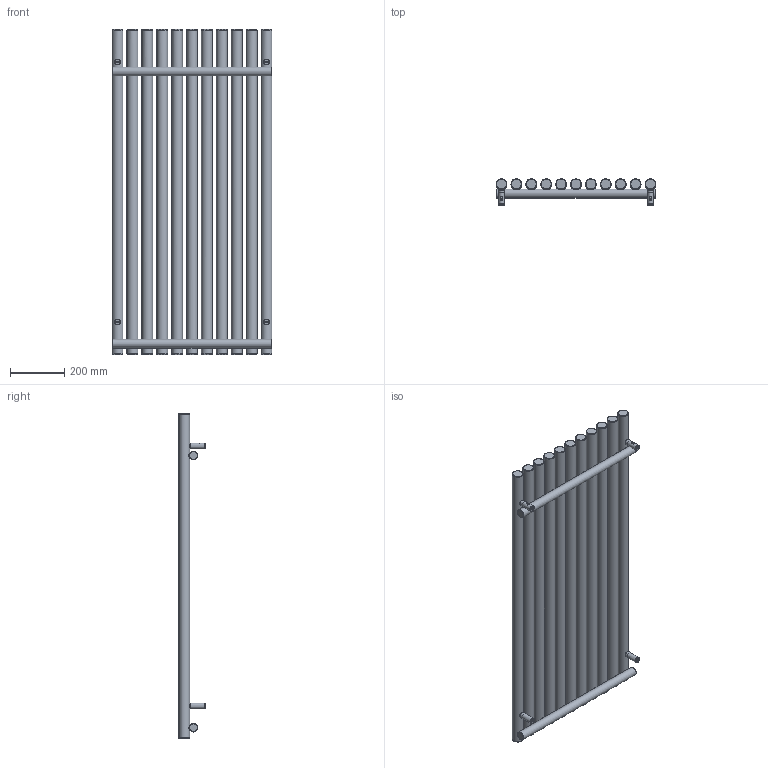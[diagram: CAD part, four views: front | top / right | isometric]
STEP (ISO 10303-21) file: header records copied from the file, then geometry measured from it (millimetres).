
FILE_DESCRIPTION(/* description */ (''),/* implementation_level */ '2;1');
FILE_NAME(/* name */ 'Z:\R\G\P\RGP116 - Grzejniki Geyser\Work\Inventor\Circolo (Rolo V, Rolo H)\ROLO-ROOM\Marketing\Bryły 3D\Zaokrąglone\WLROR120059-ES-CK-(Z).stp',/* time_stamp */ '2024-04-03T09:02:30+02:00',/* author */ ('NowAd'),/* organization */ (''),/* preprocessor_version */ 'ST-DEVELOPER v17.2',/* originating_system */ 'Autodesk Inventor 2019',/* authorisation */ '');
FILE_SCHEMA (('AUTOMOTIVE_DESIGN { 1 0 10303 214 3 1 1 }'));
Length unit declared in the file: millimetre
Products named in the file (3): WLROR120059-ES-CK-(Z); PGROR120059-ES-CK-(K); CK-V-fi40 marketing
Assembly tree (5 placements, depth 2):
  WLROR120059-ES-CK-(Z)
    PGROR120059-ES-CK-(K)
    CK-V-fi40 marketing  x4
Bounding box: 590 x 96.5 x 1200 mm (x, y, z)
Volume: 17574950.1 mm3; surface area: 1825133.6 mm2
Topology: 5 solids, 5 shells, 359 faces, 889 edges, 594 vertices
Faces by surface type: plane 144, cylinder 79, cone 60, torus 54, bspline 22
Full cylindrical faces by diameter (mm): 4.134 x4, 4.48 x4, 6.4 x4, 10 x4, 12 x4, 15.834 x4, 16 x4, 18.631 x2, 22 x4, 32 x2, 40 x11
Entity records: 9502 total; most frequent: CARTESIAN_POINT 5348, DIRECTION 862, ORIENTED_EDGE 816, EDGE_CURVE 408, AXIS2_PLACEMENT_3D 391, VERTEX_POINT 276, EDGE_LOOP 238, CIRCLE 221
